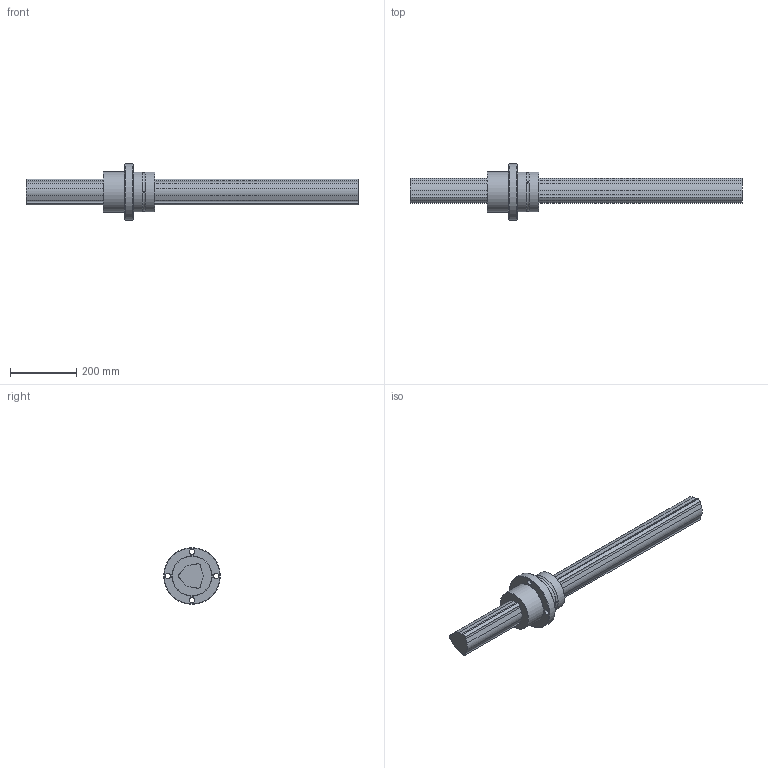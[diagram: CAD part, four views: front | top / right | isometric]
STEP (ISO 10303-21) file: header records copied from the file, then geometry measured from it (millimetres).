
FILE_DESCRIPTION(/* description */ ('STEP AP214'),/* implementation_level */ '2;1');
FILE_NAME(/* name */ 'LBR85+1000L(155232.50)',/* time_stamp */ '2024-09-04T13:10:27+02:00',/* author */ ('License CC BY-ND 4.0'),/* organization */ ('CADENAS'),/* preprocessor_version */ 'ST-DEVELOPER v19.3',/* originating_system */ 'PARTsolutions',/* authorisation */ ' ');
FILE_SCHEMA (('AUTOMOTIVE_DESIGN {1 0 10303 214 3 1 1}'));
Length unit declared in the file: millimetre
Products named in the file (3): LBR85+1000L(155232.50); LBR8511000 Spline Shaft; LBR85 Nut
Assembly tree (2 placements, depth 2):
  LBR85+1000L(155232.50)
    LBR8511000 Spline Shaft
    LBR85 Nut
Bounding box: 1000 x 170.6 x 170.6 mm (x, y, z)
Volume: 5388329.7 mm3; surface area: 394057.9 mm2
Topology: 2 solids, 2 shells, 63 faces, 158 edges, 104 vertices
Faces by surface type: cylinder 35, plane 21, torus 5, cone 2
Full cylindrical faces by diameter (mm): 5 x3, 16 x4, 120 x2, 120.6 x1, 170.6 x1
Entity records: 1918 total; most frequent: CARTESIAN_POINT 344, DIRECTION 338, ORIENTED_EDGE 272, AXIS2_PLACEMENT_3D 139, EDGE_CURVE 136, VERTEX_POINT 100, EDGE_LOOP 96, FACE_BOUND 96
